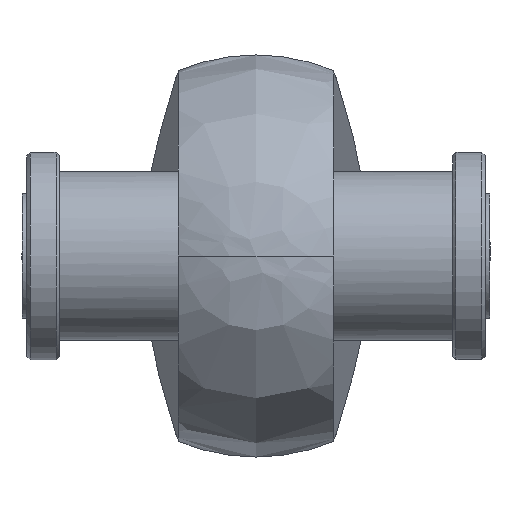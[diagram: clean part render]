
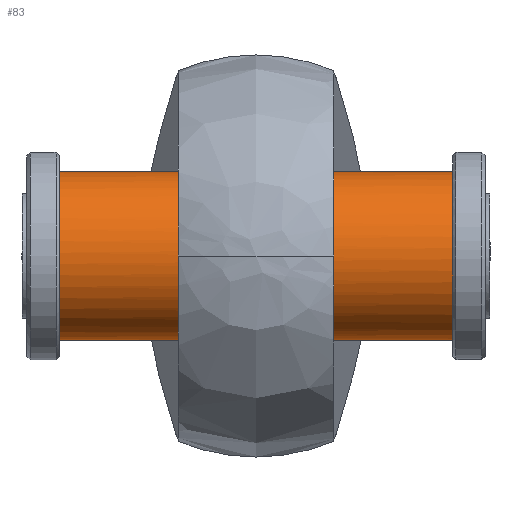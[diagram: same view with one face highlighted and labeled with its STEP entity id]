
A CAD part, left-side view. The second image highlights one B-rep face of the part: STEP entity #83.
In plain terms, the highlighted cylindrical face has radius 13 mm (diameter 26 mm), a full revolution.
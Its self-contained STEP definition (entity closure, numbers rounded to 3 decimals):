
#83=ADVANCED_FACE('',(#157),#1214,.T.);
#157=FACE_OUTER_BOUND('',#238,.T.);
#238=EDGE_LOOP('',(#506,#507,#508,#509));
#506=ORIENTED_EDGE('',*,*,#774,.T.);
#507=ORIENTED_EDGE('',*,*,#776,.T.);
#508=ORIENTED_EDGE('',*,*,#775,.T.);
#509=ORIENTED_EDGE('',*,*,#776,.F.);
#774=EDGE_CURVE('',#1128,#1128,#983,.T.);
#775=EDGE_CURVE('',#1129,#1129,#984,.T.);
#776=EDGE_CURVE('',#1128,#1129,#897,.T.);
#897=B_SPLINE_CURVE_WITH_KNOTS('',1,(#2248,#2249),.UNSPECIFIED.,.F.,.F.,
(2,2),(6.186,66.846),.UNSPECIFIED.);
#983=(
BOUNDED_CURVE()
B_SPLINE_CURVE(2,(#2230,#2231,#2232,#2233,#2234,#2235,#2236,#2237,#2238),
 .UNSPECIFIED.,.T.,.F.)
B_SPLINE_CURVE_WITH_KNOTS((3,2,2,2,3),(0.,20.42,40.841,
61.261,81.681),.UNSPECIFIED.)
CURVE()
GEOMETRIC_REPRESENTATION_ITEM()
RATIONAL_B_SPLINE_CURVE((1.,0.707,1.,0.707,1.,0.707,
1.,0.707,1.))
REPRESENTATION_ITEM('')
);
#984=(
BOUNDED_CURVE()
B_SPLINE_CURVE(2,(#2239,#2240,#2241,#2242,#2243,#2244,#2245,#2246,#2247),
 .UNSPECIFIED.,.T.,.F.)
B_SPLINE_CURVE_WITH_KNOTS((3,2,2,2,3),(0.,20.42,40.841,
61.261,81.681),.UNSPECIFIED.)
CURVE()
GEOMETRIC_REPRESENTATION_ITEM()
RATIONAL_B_SPLINE_CURVE((1.,0.707,1.,0.707,1.,0.707,
1.,0.707,1.))
REPRESENTATION_ITEM('')
);
#1128=VERTEX_POINT('',#2182);
#1129=VERTEX_POINT('',#2183);
#1214=CYLINDRICAL_SURFACE('',#1366,13.);
#1366=AXIS2_PLACEMENT_3D('',#2172,#1412,$);
#1412=DIRECTION('',(0.,-1.,0.));
#2172=CARTESIAN_POINT('',(0.,0.,0.));
#2182=CARTESIAN_POINT('',(13.,30.33,0.));
#2183=CARTESIAN_POINT('',(13.,-30.33,0.));
#2230=CARTESIAN_POINT('',(13.,30.33,0.));
#2231=CARTESIAN_POINT('',(13.,30.33,13.));
#2232=CARTESIAN_POINT('',(0.,30.33,13.));
#2233=CARTESIAN_POINT('',(-13.,30.33,13.));
#2234=CARTESIAN_POINT('',(-13.,30.33,0.));
#2235=CARTESIAN_POINT('',(-13.,30.33,-13.));
#2236=CARTESIAN_POINT('',(0.,30.33,-13.));
#2237=CARTESIAN_POINT('',(13.,30.33,-13.));
#2238=CARTESIAN_POINT('',(13.,30.33,0.));
#2239=CARTESIAN_POINT('',(13.,-30.33,0.));
#2240=CARTESIAN_POINT('',(13.,-30.33,-13.));
#2241=CARTESIAN_POINT('',(0.,-30.33,-13.));
#2242=CARTESIAN_POINT('',(-13.,-30.33,-13.));
#2243=CARTESIAN_POINT('',(-13.,-30.33,0.));
#2244=CARTESIAN_POINT('',(-13.,-30.33,13.));
#2245=CARTESIAN_POINT('',(0.,-30.33,13.));
#2246=CARTESIAN_POINT('',(13.,-30.33,13.));
#2247=CARTESIAN_POINT('',(13.,-30.33,0.));
#2248=CARTESIAN_POINT('',(13.,30.33,0.));
#2249=CARTESIAN_POINT('',(13.,-30.33,0.));
